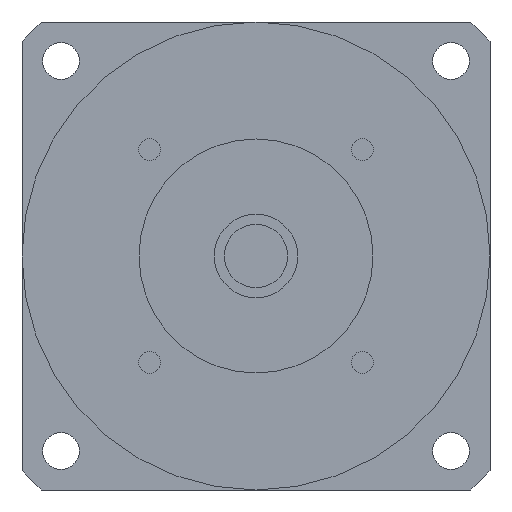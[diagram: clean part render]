
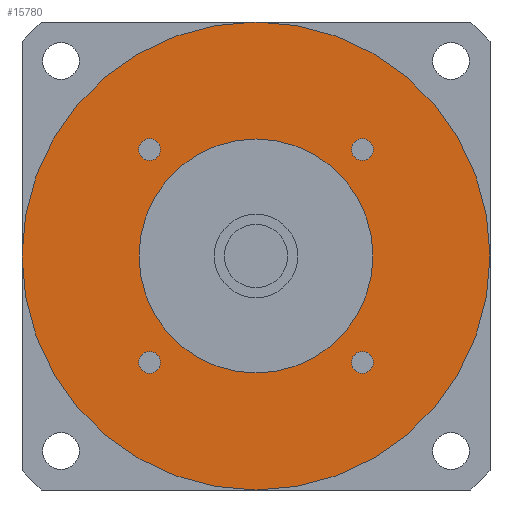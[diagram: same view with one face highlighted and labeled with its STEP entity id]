
A CAD part, left-side view. The second image highlights one B-rep face of the part: STEP entity #15780.
In plain terms, the highlighted planar face has unit normal (-1, 0, 0) as drawn and (0, 0, -1) by its records, which use the part's own axes.
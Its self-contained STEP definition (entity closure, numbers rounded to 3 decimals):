
#14620=CARTESIAN_POINT('',(-70.,0.,-54.7));
#14630=VERTEX_POINT('',#14620);
#14660=CARTESIAN_POINT('',(0.,0.,
-54.7));
#14670=DIRECTION('',(0.,0.,-1.));
#14680=DIRECTION('',(0.,-1.,0.));
#14690=AXIS2_PLACEMENT_3D('',#14660,#14670,#14680);
#14700=CIRCLE('',#14690,70.);
#14710=CARTESIAN_POINT('',(70.,0.,-54.7));
#14720=VERTEX_POINT('',#14710);
#14730=EDGE_CURVE('',#14630,#14720,#14700,.T.);
#14850=CARTESIAN_POINT('',(0.,0.,
-54.7));
#14860=DIRECTION('',(0.,0.,-1.));
#14870=DIRECTION('',(1.,0.,0.));
#14880=AXIS2_PLACEMENT_3D('',#14850,#14860,#14870);
#14890=PLANE('',#14880);
#14900=CARTESIAN_POINT('',(-31.82,31.82,-54.7));
#14910=DIRECTION('',(0.,0.,-1.));
#14920=DIRECTION('',(-1.,0.,0.));
#14930=AXIS2_PLACEMENT_3D('',#14900,#14910,#14920);
#14940=CIRCLE('',#14930,3.25);
#14950=CARTESIAN_POINT('',(-35.07,31.82,-54.7));
#14960=VERTEX_POINT('',#14950);
#14970=CARTESIAN_POINT('',(-28.57,31.82,-54.7));
#14980=VERTEX_POINT('',#14970);
#14990=EDGE_CURVE('',#14960,#14980,#14940,.T.);
#15000=ORIENTED_EDGE('',*,*,#14990,.F.);
#15010=EDGE_CURVE('',#14980,#14960,#14940,.T.);
#15020=ORIENTED_EDGE('',*,*,#15010,.F.);
#15030=EDGE_LOOP('',(#15020,#15000));
#15040=FACE_BOUND('',#15030,.T.);
#15050=CARTESIAN_POINT('',(-31.82,-31.82,-54.7));
#15060=DIRECTION('',(0.,0.,-1.));
#15070=DIRECTION('',(0.,-1.,0.));
#15080=AXIS2_PLACEMENT_3D('',#15050,#15060,#15070);
#15090=CIRCLE('',#15080,3.25);
#15100=CARTESIAN_POINT('',(-31.82,-35.07,-54.7));
#15110=VERTEX_POINT('',#15100);
#15120=CARTESIAN_POINT('',(-31.82,-28.57,-54.7));
#15130=VERTEX_POINT('',#15120);
#15140=EDGE_CURVE('',#15110,#15130,#15090,.T.);
#15150=ORIENTED_EDGE('',*,*,#15140,.F.);
#15160=EDGE_CURVE('',#15130,#15110,#15090,.T.);
#15170=ORIENTED_EDGE('',*,*,#15160,.F.);
#15180=EDGE_LOOP('',(#15170,#15150));
#15190=FACE_BOUND('',#15180,.T.);
#15200=CARTESIAN_POINT('',(0.,0.,
-54.7));
#15210=DIRECTION('',(0.,0.,1.));
#15220=DIRECTION('',(0.,1.,0.));
#15230=AXIS2_PLACEMENT_3D('',#15200,#15210,#15220);
#15240=CIRCLE('',#15230,35.);
#15250=CARTESIAN_POINT('',(-35.,0.,-54.7));
#15260=VERTEX_POINT('',#15250);
#15270=CARTESIAN_POINT('',(35.,0.,-54.7));
#15280=VERTEX_POINT('',#15270);
#15290=EDGE_CURVE('',#15260,#15280,#15240,.T.);
#15300=ORIENTED_EDGE('',*,*,#15290,.T.);
#15310=CARTESIAN_POINT('',(0.,35.,-54.7));
#15320=VERTEX_POINT('',#15310);
#15330=EDGE_CURVE('',#15320,#15260,#15240,.T.);
#15340=ORIENTED_EDGE('',*,*,#15330,.T.);
#15350=EDGE_CURVE('',#15280,#15320,#15240,.T.);
#15360=ORIENTED_EDGE('',*,*,#15350,.T.);
#15370=EDGE_LOOP('',(#15360,#15340,#15300));
#15380=FACE_BOUND('',#15370,.T.);
#15390=CARTESIAN_POINT('',(31.82,-31.82,-54.7));
#15400=DIRECTION('',(0.,0.,-1.));
#15410=DIRECTION('',(1.,0.,0.));
#15420=AXIS2_PLACEMENT_3D('',#15390,#15400,#15410);
#15430=CIRCLE('',#15420,3.25);
#15440=CARTESIAN_POINT('',(35.07,-31.82,-54.7));
#15450=VERTEX_POINT('',#15440);
#15460=CARTESIAN_POINT('',(28.57,-31.82,-54.7));
#15470=VERTEX_POINT('',#15460);
#15480=EDGE_CURVE('',#15450,#15470,#15430,.T.);
#15490=ORIENTED_EDGE('',*,*,#15480,.F.);
#15500=EDGE_CURVE('',#15470,#15450,#15430,.T.);
#15510=ORIENTED_EDGE('',*,*,#15500,.F.);
#15520=EDGE_LOOP('',(#15510,#15490));
#15530=FACE_BOUND('',#15520,.T.);
#15540=CARTESIAN_POINT('',(31.82,31.82,-54.7));
#15550=DIRECTION('',(0.,0.,-1.));
#15560=DIRECTION('',(0.,1.,0.));
#15570=AXIS2_PLACEMENT_3D('',#15540,#15550,#15560);
#15580=CIRCLE('',#15570,3.25);
#15590=CARTESIAN_POINT('',(31.82,35.07,-54.7));
#15600=VERTEX_POINT('',#15590);
#15610=CARTESIAN_POINT('',(31.82,28.57,-54.7));
#15620=VERTEX_POINT('',#15610);
#15630=EDGE_CURVE('',#15600,#15620,#15580,.T.);
#15640=ORIENTED_EDGE('',*,*,#15630,.F.);
#15650=EDGE_CURVE('',#15620,#15600,#15580,.T.);
#15660=ORIENTED_EDGE('',*,*,#15650,.F.);
#15670=EDGE_LOOP('',(#15660,#15640));
#15680=FACE_BOUND('',#15670,.T.);
#15690=ORIENTED_EDGE('',*,*,#14730,.T.);
#15700=CARTESIAN_POINT('',(0.,-70.,-54.7));
#15710=VERTEX_POINT('',#15700);
#15720=EDGE_CURVE('',#15710,#14630,#14700,.T.);
#15730=ORIENTED_EDGE('',*,*,#15720,.T.);
#15740=EDGE_CURVE('',#14720,#15710,#14700,.T.);
#15750=ORIENTED_EDGE('',*,*,#15740,.T.);
#15760=EDGE_LOOP('',(#15750,#15730,#15690));
#15770=FACE_OUTER_BOUND('',#15760,.T.);
#15780=ADVANCED_FACE('',(#15040,#15190,#15380,#15530,#15680,#15770),
#14890,.T.);
